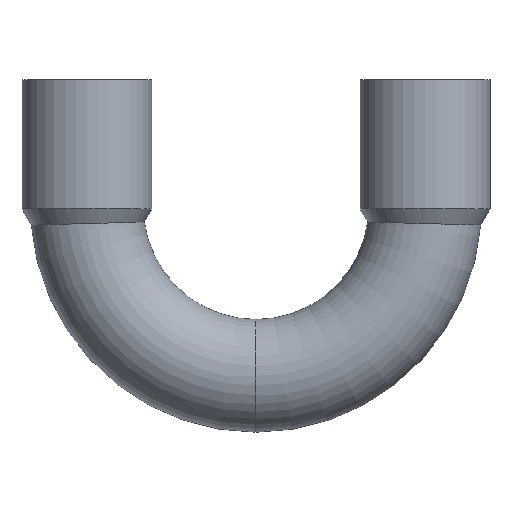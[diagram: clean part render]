
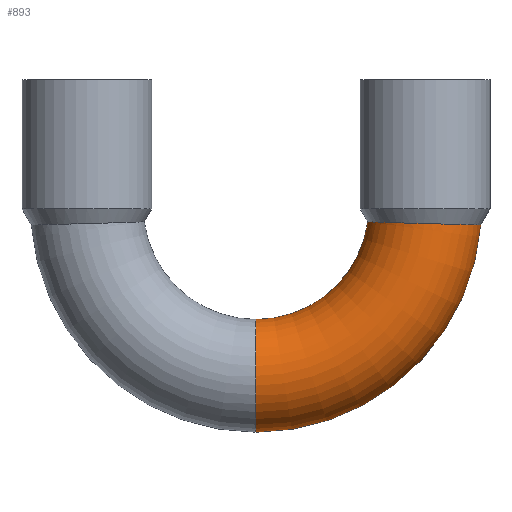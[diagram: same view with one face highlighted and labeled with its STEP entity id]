
A CAD part, front view. The second image highlights one B-rep face of the part: STEP entity #893.
In plain terms, the highlighted toroidal (fillet/blend) face has major radius 12 mm and minor radius 4 mm.
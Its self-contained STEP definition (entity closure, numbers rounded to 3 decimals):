
#51=CARTESIAN_POINT('',(22.035,0.,-16.0));
#52=VERTEX_POINT('',#51);
#85=CARTESIAN_POINT('',(22.035,0.,-8.));
#86=VERTEX_POINT('',#85);
#109=CARTESIAN_POINT('',(37.983,0.,-1.29));
#110=VERTEX_POINT('',#109);
#111=CARTESIAN_POINT('',(22.035,0.,0.0));
#112=DIRECTION('',(0.0,-1.0,0.0));
#113=DIRECTION('',(0.0,0.0,-1.0));
#114=AXIS2_PLACEMENT_3D('',#111,#112,#113);
#115=CIRCLE('',#114,16.0);
#116=EDGE_CURVE('',#52,#110,#115,.T.);
#119=CARTESIAN_POINT('',(29.963,0.,-1.074));
#120=VERTEX_POINT('',#119);
#121=CARTESIAN_POINT('',(22.035,0.,0.0));
#122=DIRECTION('',(0.0,1.0,0.0));
#123=DIRECTION('',(0.0,0.0,-1.0));
#124=AXIS2_PLACEMENT_3D('',#121,#122,#123);
#125=CIRCLE('',#124,8.);
#126=EDGE_CURVE('',#120,#86,#125,.T.);
#854=CARTESIAN_POINT('',(22.035,0.,0.0));
#855=DIRECTION('',(0.0,-1.0,0.0));
#856=DIRECTION('',(0.0,0.0,-1.0));
#857=AXIS2_PLACEMENT_3D('',#854,#855,#856);
#858=TOROIDAL_SURFACE('',#857,12.,4.0);
#859=ORIENTED_EDGE('',*,*,#116,.T.);
#860=CARTESIAN_POINT('',(37.983,0.,-1.29));
#861=CARTESIAN_POINT('',(37.983,-0.295,-1.29));
#862=CARTESIAN_POINT('',(37.95,-0.588,-1.29));
#863=CARTESIAN_POINT('',(37.821,-1.163,-1.287));
#864=CARTESIAN_POINT('',(37.725,-1.442,-1.285));
#865=CARTESIAN_POINT('',(37.376,-2.18,-1.278));
#866=CARTESIAN_POINT('',(37.063,-2.603,-1.271));
#867=CARTESIAN_POINT('',(36.292,-3.306,-1.255));
#868=CARTESIAN_POINT('',(35.84,-3.579,-1.245));
#869=CARTESIAN_POINT('',(34.858,-3.937,-1.222));
#870=CARTESIAN_POINT('',(34.336,-4.018,-1.209));
#871=CARTESIAN_POINT('',(33.289,-3.976,-1.181));
#872=CARTESIAN_POINT('',(32.775,-3.852,-1.167));
#873=CARTESIAN_POINT('',(31.825,-3.416,-1.138));
#874=CARTESIAN_POINT('',(31.397,-3.108,-1.125));
#875=CARTESIAN_POINT('',(30.685,-2.347,-1.101));
#876=CARTESIAN_POINT('',(30.407,-1.902,-1.091));
#877=CARTESIAN_POINT('',(30.051,-0.964,-1.078));
#878=CARTESIAN_POINT('',(29.963,-0.484,-1.074));
#879=CARTESIAN_POINT('',(29.963,0.,-1.074));
#880=B_SPLINE_CURVE_WITH_KNOTS('',3,(#860,#861,#862,#863,#864,#865,#866,#867,#868,#869,#870,#871,#872,#873,#874,#875,#876,#877,#878,#879),.UNSPECIFIED.,.F.,.U.,(4,2,2,2,2,2,2,2,2,4),(-2.524,-2.436,-2.348,-2.191,-2.034,-1.877,-1.72,-1.564,-1.408,-1.262),.UNSPECIFIED.);
#881=EDGE_CURVE('',#110,#120,#880,.T.);
#882=ORIENTED_EDGE('',*,*,#881,.T.);
#883=ORIENTED_EDGE('',*,*,#126,.T.);
#884=CARTESIAN_POINT('',(22.035,0.,-12.));
#885=DIRECTION('',(-1.0,0.0,0.0));
#886=DIRECTION('',(0.0,0.0,-1.0));
#887=AXIS2_PLACEMENT_3D('',#884,#885,#886);
#888=CIRCLE('',#887,4.0);
#889=EDGE_CURVE('',#52,#86,#888,.T.);
#890=ORIENTED_EDGE('',*,*,#889,.F.);
#891=EDGE_LOOP('',(#859,#882,#883,#890));
#892=FACE_OUTER_BOUND('',#891,.T.);
#893=ADVANCED_FACE('',(#892),#858,.T.);
